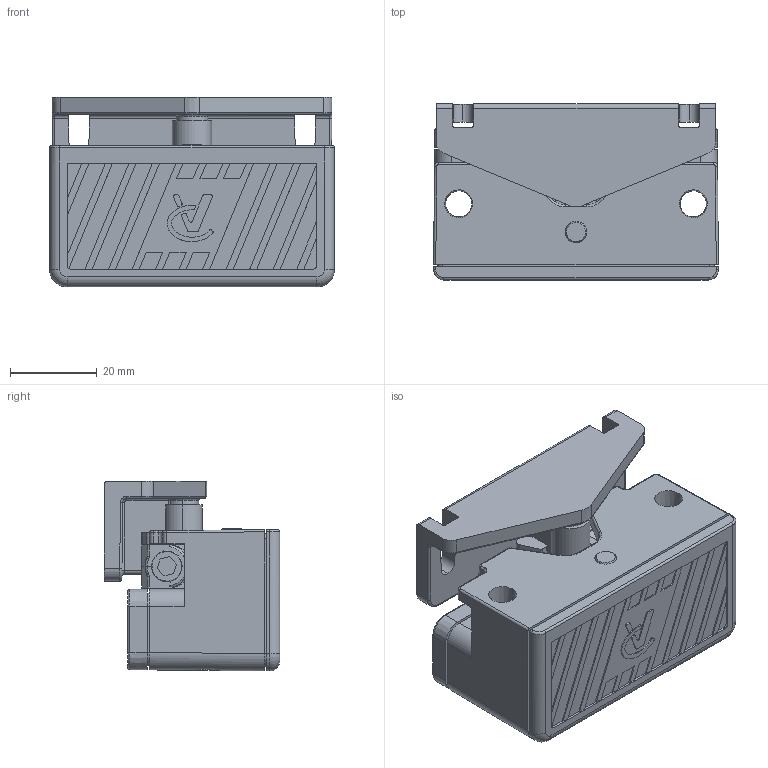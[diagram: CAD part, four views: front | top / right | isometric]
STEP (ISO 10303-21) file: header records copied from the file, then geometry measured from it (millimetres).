
FILE_DESCRIPTION (( 'STEP AP203' ), '1' );
FILE_NAME ('013.100.075.STEP', '2023-05-12T06:41:34', ( '' ), ( '' ), 'SwSTEP 2.0', 'SolidWorks 2021', '' );
FILE_SCHEMA (( 'CONFIG_CONTROL_DESIGN' ));
Length unit declared in the file: millimetre
Products named in the file (12): 013.100.070C; 013.100.075; 013.100.070B; 0520UNI8735; 013.100.070A; 013.100.070J; 013.100.070G; 013.100.070 PARTE MOBILE; 013.100.070D; SFERA06; 013.100.070F; 013.100.070E
Assembly tree (14 placements, depth 3):
  013.100.075
    013.100.070A
    013.100.070 PARTE MOBILE
      013.100.070B
      SFERA06  x2
      013.100.070G  x2
      0520UNI8735
      013.100.070F  x2
    013.100.070D
    013.100.070J
    013.100.070C
    013.100.070E
Bounding box: 65.5 x 40.43 x 43.67 mm (x, y, z)
Volume: 52810 mm3; surface area: 42911.4 mm2
Topology: 13 solids, 15 shells, 910 faces, 2363 edges, 1489 vertices
Faces by surface type: plane 397, cone 209, cylinder 172, bspline 82, torus 36, sphere 14
Entity records: 32115 total; most frequent: CARTESIAN_POINT 10356, ORIENTED_EDGE 4534, DIRECTION 3970, EDGE_CURVE 2267, VERTEX_POINT 1441, AXIS2_PLACEMENT_3D 1377, LINE 1216, VECTOR 1216
